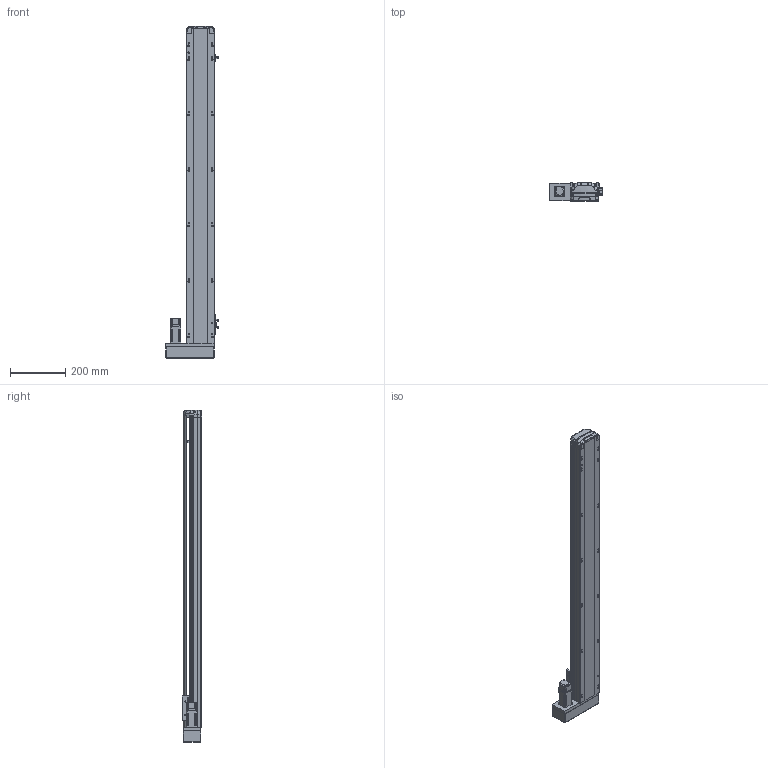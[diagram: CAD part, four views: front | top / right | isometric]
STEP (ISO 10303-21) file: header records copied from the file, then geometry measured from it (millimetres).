
FILE_DESCRIPTION (( 'STEP AP214' ), '1' );
FILE_NAME ('RTH10-XX-950-L-M10-C4.STEP', '2025-10-25T05:38:54', ( 'Microsoft' ), ( 'Microsoft' ), 'SwSTEP 2.0', 'SolidWorks 2018', '' );
FILE_SCHEMA (( 'AUTOMOTIVE_DESIGN' ));
Length unit declared in the file: millimetre
Products named in the file (10): N_OMRON EE-SX672 传感器^RTH10-XX-XX-L-M10-C4; N_P10^RTH10-XX-XX-L-M10-C4; N_RTH12-M-007P-奻裔^RTH10-XX-XX-L-M10-C4; N_RTH13-L-012覜茼え俋离^RTH10-XX-XX-L-M10-C4; N_RTH12-GY-004-賑釱^RTH10-XX-XX-L-M10-C4; N_RTH12-L-018-裔赽^RTH10-XX-XX-L-M10-C4; N_RTH12-M-011P-臏倰第菁釱^RTH10-XX-XX-L-M10-C4; RTH10-XX-950-L-M10-C4; N_RTH12-L-008萇儂啣^RTH10-XX-XX-L-M10-C4; N_RTH12-GY-001P^RTH10-XX-XX-L-M10-C4
Assembly tree (11 placements, depth 2):
  RTH10-XX-950-L-M10-C4
    N_RTH12-M-011P-臏倰第菁釱^RTH10-XX-XX-L-M10-C4
    N_RTH13-L-012覜茼え俋离^RTH10-XX-XX-L-M10-C4
    N_OMRON EE-SX672 传感器^RTH10-XX-XX-L-M10-C4  x3
    N_P10^RTH10-XX-XX-L-M10-C4
    N_RTH12-M-007P-奻裔^RTH10-XX-XX-L-M10-C4
    N_RTH12-L-008萇儂啣^RTH10-XX-XX-L-M10-C4
    N_RTH12-L-018-裔赽^RTH10-XX-XX-L-M10-C4
    N_RTH12-GY-004-賑釱^RTH10-XX-XX-L-M10-C4
    N_RTH12-GY-001P^RTH10-XX-XX-L-M10-C4
Bounding box: 190 x 70 x 1197.31 mm (x, y, z)
Volume: 5028553.4 mm3; surface area: 765809.7 mm2
Topology: 10 solids, 12 shells, 1960 faces, 5488 edges, 3601 vertices
Faces by surface type: plane 955, cylinder 498, bspline 472, cone 29, sphere 4, torus 2
Entity records: 59392 total; most frequent: CARTESIAN_POINT 23529, ORIENTED_EDGE 8048, DIRECTION 6210, EDGE_CURVE 4030, VERTEX_POINT 2645, VECTOR 2094, LINE 2094, AXIS2_PLACEMENT_3D 2058
